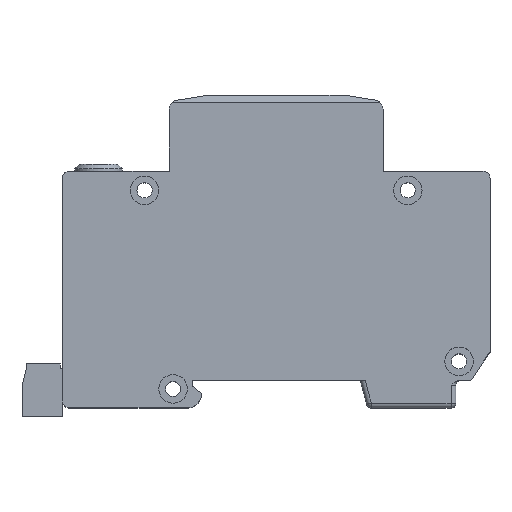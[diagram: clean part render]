
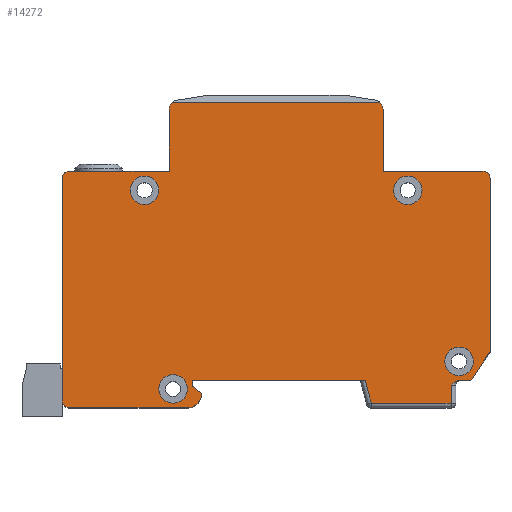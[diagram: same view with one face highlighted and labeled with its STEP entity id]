
A CAD part, top view. The second image highlights one B-rep face of the part: STEP entity #14272.
In plain terms, the highlighted planar face has unit normal (0, 0, 1).
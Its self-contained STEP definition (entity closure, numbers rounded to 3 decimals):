
#257=FACE_BOUND('',#2360,.T.);
#258=FACE_BOUND('',#2361,.T.);
#259=FACE_BOUND('',#2362,.T.);
#260=FACE_BOUND('',#2363,.T.);
#272=B_SPLINE_CURVE_WITH_KNOTS('',3,(#23444,#23445,#23446,#23447,#23448,
#23449),.UNSPECIFIED.,.F.,.F.,(4,2,4),(0.506,0.582,
0.7),.UNSPECIFIED.);
#809=PLANE('',#15535);
#1534=FACE_OUTER_BOUND('',#2359,.T.);
#2359=EDGE_LOOP('',(#12986,#12987,#12988,#12989,#12990,#12991,#12992,#12993,
#12994,#12995,#12996,#12997,#12998,#12999,#13000,#13001,#13002,#13003,#13004,
#13005,#13006,#13007,#13008));
#2360=EDGE_LOOP('',(#13009));
#2361=EDGE_LOOP('',(#13010));
#2362=EDGE_LOOP('',(#13011));
#2363=EDGE_LOOP('',(#13012));
#3573=LINE('',#22433,#5197);
#3889=LINE('',#23122,#5513);
#3907=LINE('',#23159,#5531);
#3913=LINE('',#23175,#5537);
#3917=LINE('',#23183,#5541);
#3921=LINE('',#23195,#5545);
#3943=LINE('',#23254,#5567);
#3947=LINE('',#23263,#5571);
#3999=LINE('',#23363,#5623);
#4005=LINE('',#23381,#5629);
#4010=LINE('',#23430,#5634);
#4011=LINE('',#23434,#5635);
#4012=LINE('',#23437,#5636);
#4013=LINE('',#23439,#5637);
#4014=LINE('',#23441,#5638);
#4015=LINE('',#23443,#5639);
#5197=VECTOR('',#18337,10.);
#5513=VECTOR('',#18889,10.);
#5531=VECTOR('',#18929,10.);
#5537=VECTOR('',#18947,10.);
#5541=VECTOR('',#18955,10.);
#5545=VECTOR('',#18967,10.);
#5567=VECTOR('',#19031,10.);
#5571=VECTOR('',#19041,10.);
#5623=VECTOR('',#19137,10.);
#5629=VECTOR('',#19159,10.);
#5634=VECTOR('',#19226,10.);
#5635=VECTOR('',#19229,10.);
#5636=VECTOR('',#19232,10.);
#5637=VECTOR('',#19233,10.);
#5638=VECTOR('',#19234,10.);
#5639=VECTOR('',#19235,10.);
#5964=CIRCLE('',#15405,1.5);
#5966=CIRCLE('',#15436,1.5);
#5968=CIRCLE('',#15442,3.);
#5978=CIRCLE('',#15500,1.5);
#5997=CIRCLE('',#15536,2.);
#5998=CIRCLE('',#15537,2.);
#5999=CIRCLE('',#15538,3.);
#6000=CIRCLE('',#15539,3.);
#6001=CIRCLE('',#15540,3.);
#6002=CIRCLE('',#15541,3.);
#6949=VERTEX_POINT('',#22430);
#6950=VERTEX_POINT('',#22432);
#7175=VERTEX_POINT('',#23012);
#7205=VERTEX_POINT('',#23120);
#7211=VERTEX_POINT('',#23149);
#7213=VERTEX_POINT('',#23157);
#7215=VERTEX_POINT('',#23165);
#7217=VERTEX_POINT('',#23173);
#7219=VERTEX_POINT('',#23181);
#7223=VERTEX_POINT('',#23193);
#7238=VERTEX_POINT('',#23251);
#7239=VERTEX_POINT('',#23253);
#7241=VERTEX_POINT('',#23261);
#7267=VERTEX_POINT('',#23361);
#7269=VERTEX_POINT('',#23369);
#7271=VERTEX_POINT('',#23379);
#7284=VERTEX_POINT('',#23429);
#7285=VERTEX_POINT('',#23431);
#7286=VERTEX_POINT('',#23433);
#7287=VERTEX_POINT('',#23435);
#7288=VERTEX_POINT('',#23438);
#7289=VERTEX_POINT('',#23440);
#7290=VERTEX_POINT('',#23442);
#7291=VERTEX_POINT('',#23450);
#7292=VERTEX_POINT('',#23452);
#7293=VERTEX_POINT('',#23454);
#7294=VERTEX_POINT('',#23456);
#8733=EDGE_CURVE('',#6950,#6949,#3573,.T.);
#9023=EDGE_CURVE('',#7175,#6949,#5964,.T.);
#9079=EDGE_CURVE('',#7175,#7205,#3889,.T.);
#9095=EDGE_CURVE('',#7211,#7205,#5966,.T.);
#9099=EDGE_CURVE('',#7211,#7213,#3907,.T.);
#9103=EDGE_CURVE('',#7213,#7215,#5968,.T.);
#9107=EDGE_CURVE('',#7215,#7217,#3913,.T.);
#9111=EDGE_CURVE('',#7217,#7219,#3917,.T.);
#9117=EDGE_CURVE('',#7219,#7223,#3921,.T.);
#9146=EDGE_CURVE('',#7238,#7239,#3943,.T.);
#9151=EDGE_CURVE('',#7238,#7241,#3947,.T.);
#9203=EDGE_CURVE('',#7241,#7267,#3999,.T.);
#9207=EDGE_CURVE('',#7269,#7267,#5978,.T.);
#9213=EDGE_CURVE('',#7269,#7271,#4005,.T.);
#9234=EDGE_CURVE('',#7271,#7284,#4010,.T.);
#9235=EDGE_CURVE('',#7285,#7284,#5997,.T.);
#9236=EDGE_CURVE('',#7286,#7285,#4011,.T.);
#9237=EDGE_CURVE('',#7287,#7286,#5998,.T.);
#9238=EDGE_CURVE('',#7287,#6950,#4012,.T.);
#9239=EDGE_CURVE('',#7288,#7223,#4013,.T.);
#9240=EDGE_CURVE('',#7289,#7288,#4014,.T.);
#9241=EDGE_CURVE('',#7290,#7289,#4015,.T.);
#9242=EDGE_CURVE('',#7239,#7290,#272,.T.);
#9243=EDGE_CURVE('',#7291,#7291,#5999,.T.);
#9244=EDGE_CURVE('',#7292,#7292,#6000,.T.);
#9245=EDGE_CURVE('',#7293,#7293,#6001,.T.);
#9246=EDGE_CURVE('',#7294,#7294,#6002,.T.);
#12986=ORIENTED_EDGE('',*,*,#9207,.F.);
#12987=ORIENTED_EDGE('',*,*,#9213,.T.);
#12988=ORIENTED_EDGE('',*,*,#9234,.T.);
#12989=ORIENTED_EDGE('',*,*,#9235,.F.);
#12990=ORIENTED_EDGE('',*,*,#9236,.F.);
#12991=ORIENTED_EDGE('',*,*,#9237,.F.);
#12992=ORIENTED_EDGE('',*,*,#9238,.T.);
#12993=ORIENTED_EDGE('',*,*,#8733,.T.);
#12994=ORIENTED_EDGE('',*,*,#9023,.F.);
#12995=ORIENTED_EDGE('',*,*,#9079,.T.);
#12996=ORIENTED_EDGE('',*,*,#9095,.F.);
#12997=ORIENTED_EDGE('',*,*,#9099,.T.);
#12998=ORIENTED_EDGE('',*,*,#9103,.T.);
#12999=ORIENTED_EDGE('',*,*,#9107,.T.);
#13000=ORIENTED_EDGE('',*,*,#9111,.T.);
#13001=ORIENTED_EDGE('',*,*,#9117,.T.);
#13002=ORIENTED_EDGE('',*,*,#9239,.F.);
#13003=ORIENTED_EDGE('',*,*,#9240,.F.);
#13004=ORIENTED_EDGE('',*,*,#9241,.F.);
#13005=ORIENTED_EDGE('',*,*,#9242,.F.);
#13006=ORIENTED_EDGE('',*,*,#9146,.F.);
#13007=ORIENTED_EDGE('',*,*,#9151,.T.);
#13008=ORIENTED_EDGE('',*,*,#9203,.T.);
#13009=ORIENTED_EDGE('',*,*,#9243,.T.);
#13010=ORIENTED_EDGE('',*,*,#9244,.T.);
#13011=ORIENTED_EDGE('',*,*,#9245,.T.);
#13012=ORIENTED_EDGE('',*,*,#9246,.T.);
#14272=ADVANCED_FACE('',(#1534,#257,#258,#259,#260),#809,.T.);
#15405=AXIS2_PLACEMENT_3D('',#23014,#18788,#18789);
#15436=AXIS2_PLACEMENT_3D('',#23151,#18920,#18921);
#15442=AXIS2_PLACEMENT_3D('',#23167,#18938,#18939);
#15500=AXIS2_PLACEMENT_3D('',#23371,#19146,#19147);
#15535=AXIS2_PLACEMENT_3D('',#23428,#19224,#19225);
#15536=AXIS2_PLACEMENT_3D('',#23432,#19227,#19228);
#15537=AXIS2_PLACEMENT_3D('',#23436,#19230,#19231);
#15538=AXIS2_PLACEMENT_3D('',#23451,#19236,#19237);
#15539=AXIS2_PLACEMENT_3D('',#23453,#19238,#19239);
#15540=AXIS2_PLACEMENT_3D('',#23455,#19240,#19241);
#15541=AXIS2_PLACEMENT_3D('',#23457,#19242,#19243);
#18337=DIRECTION('',(-1.,0.,0.));
#18788=DIRECTION('center_axis',(0.,0.,-1.));
#18789=DIRECTION('ref_axis',(-0.707,0.707,0.));
#18889=DIRECTION('',(0.,-1.,0.));
#18920=DIRECTION('center_axis',(0.,0.,-1.));
#18921=DIRECTION('ref_axis',(-0.707,-0.707,0.));
#18929=DIRECTION('',(1.,0.,0.));
#18938=DIRECTION('center_axis',(0.,0.,1.));
#18939=DIRECTION('ref_axis',(0.,-1.,0.));
#18947=DIRECTION('',(-0.781,0.625,0.));
#18955=DIRECTION('',(0.,1.,0.));
#18967=DIRECTION('',(1.,0.,0.));
#19031=DIRECTION('',(-1.,0.,0.));
#19041=DIRECTION('',(0.555,0.832,0.));
#19137=DIRECTION('',(0.,1.,0.));
#19146=DIRECTION('center_axis',(0.,0.,-1.));
#19147=DIRECTION('ref_axis',(0.707,0.707,0.));
#19159=DIRECTION('',(-1.,0.,0.));
#19224=DIRECTION('center_axis',(0.,0.,1.));
#19225=DIRECTION('ref_axis',(1.,0.,0.));
#19226=DIRECTION('',(0.,1.,0.));
#19227=DIRECTION('center_axis',(0.,0.,-1.));
#19228=DIRECTION('ref_axis',(0.762,0.648,0.));
#19229=DIRECTION('',(1.,0.,0.));
#19230=DIRECTION('center_axis',(0.,0.,-1.));
#19231=DIRECTION('ref_axis',(-0.762,0.648,0.));
#19232=DIRECTION('',(0.,-1.,0.));
#19233=DIRECTION('',(-0.259,0.966,0.));
#19234=DIRECTION('',(-1.,0.,0.));
#19235=DIRECTION('',(0.,-1.,0.));
#19236=DIRECTION('center_axis',(0.,0.,-1.));
#19237=DIRECTION('ref_axis',(1.,0.,0.));
#19238=DIRECTION('center_axis',(0.,0.,-1.));
#19239=DIRECTION('ref_axis',(1.,0.,0.));
#19240=DIRECTION('center_axis',(0.,0.,-1.));
#19241=DIRECTION('ref_axis',(1.,0.,0.));
#19242=DIRECTION('center_axis',(0.,0.,-1.));
#19243=DIRECTION('ref_axis',(1.,0.,0.));
#22430=CARTESIAN_POINT('',(-43.5,14.,17.5));
#22432=CARTESIAN_POINT('',(-22.5,14.,17.5));
#22433=CARTESIAN_POINT('',(-22.5,14.,17.5));
#23012=CARTESIAN_POINT('',(-45.,12.5,17.5));
#23014=CARTESIAN_POINT('Origin',(-43.5,12.5,17.5));
#23120=CARTESIAN_POINT('',(-45.,-34.3,17.5));
#23122=CARTESIAN_POINT('',(-45.,14.,17.5));
#23149=CARTESIAN_POINT('',(-43.5,-35.8,17.5));
#23151=CARTESIAN_POINT('Origin',(-43.5,-34.3,17.5));
#23157=CARTESIAN_POINT('',(-18.7,-35.8,17.5));
#23159=CARTESIAN_POINT('',(-45.,-35.8,17.5));
#23165=CARTESIAN_POINT('',(-15.7,-32.8,17.5));
#23167=CARTESIAN_POINT('Origin',(-18.7,-32.8,17.5));
#23173=CARTESIAN_POINT('',(-17.7,-31.2,17.5));
#23175=CARTESIAN_POINT('',(-15.7,-32.8,17.5));
#23181=CARTESIAN_POINT('',(-17.7,-30.,17.5));
#23183=CARTESIAN_POINT('',(-17.7,-31.2,17.5));
#23193=CARTESIAN_POINT('',(18.735,-30.,17.5));
#23195=CARTESIAN_POINT('',(-17.7,-30.,17.5));
#23251=CARTESIAN_POINT('',(41.,-30.,17.5));
#23253=CARTESIAN_POINT('',(38.532,-30.,17.5));
#23254=CARTESIAN_POINT('',(18.592,-30.,17.5));
#23261=CARTESIAN_POINT('',(45.,-24.,17.5));
#23263=CARTESIAN_POINT('',(41.,-30.,17.5));
#23361=CARTESIAN_POINT('',(45.,12.5,17.5));
#23363=CARTESIAN_POINT('',(45.,-24.,17.5));
#23369=CARTESIAN_POINT('',(43.5,14.,17.5));
#23371=CARTESIAN_POINT('Origin',(43.5,12.5,17.5));
#23379=CARTESIAN_POINT('',(22.5,14.,17.5));
#23381=CARTESIAN_POINT('',(45.,14.,17.5));
#23428=CARTESIAN_POINT('Origin',(-0.615,-5.122,17.5));
#23429=CARTESIAN_POINT('',(22.5,26.999,17.5));
#23430=CARTESIAN_POINT('',(22.5,14.,17.5));
#23431=CARTESIAN_POINT('',(21.821,28.5,17.5));
#23432=CARTESIAN_POINT('Origin',(20.5,26.999,17.5));
#23433=CARTESIAN_POINT('',(-21.821,28.5,17.5));
#23434=CARTESIAN_POINT('',(10.942,28.5,17.5));
#23435=CARTESIAN_POINT('',(-22.5,26.999,17.5));
#23436=CARTESIAN_POINT('Origin',(-20.5,26.999,17.5));
#23437=CARTESIAN_POINT('',(-22.5,30.,17.5));
#23438=CARTESIAN_POINT('',(20.021,-34.8,17.5));
#23439=CARTESIAN_POINT('',(14.943,-15.846,17.5));
#23440=CARTESIAN_POINT('',(36.8,-34.8,17.5));
#23441=CARTESIAN_POINT('',(9.319,-34.8,17.5));
#23442=CARTESIAN_POINT('',(36.8,-31.,17.5));
#23443=CARTESIAN_POINT('',(36.8,-20.461,17.5));
#23444=CARTESIAN_POINT('Ctrl Pts',(38.532,-30.,17.5));
#23445=CARTESIAN_POINT('Ctrl Pts',(38.277,-30.,17.5));
#23446=CARTESIAN_POINT('Ctrl Pts',(37.985,-30.09,17.5));
#23447=CARTESIAN_POINT('Ctrl Pts',(37.415,-30.396,17.5));
#23448=CARTESIAN_POINT('Ctrl Pts',(37.077,-30.723,17.5));
#23449=CARTESIAN_POINT('Ctrl Pts',(36.8,-31.,17.5));
#23450=CARTESIAN_POINT('',(35.5,-26.,17.5));
#23451=CARTESIAN_POINT('Origin',(38.5,-26.,17.5));
#23452=CARTESIAN_POINT('',(24.7,10.,17.5));
#23453=CARTESIAN_POINT('Origin',(27.7,10.,17.5));
#23454=CARTESIAN_POINT('',(-30.7,10.,17.5));
#23455=CARTESIAN_POINT('Origin',(-27.7,10.,17.5));
#23456=CARTESIAN_POINT('',(-24.7,-31.8,17.5));
#23457=CARTESIAN_POINT('Origin',(-21.7,-31.8,17.5));
